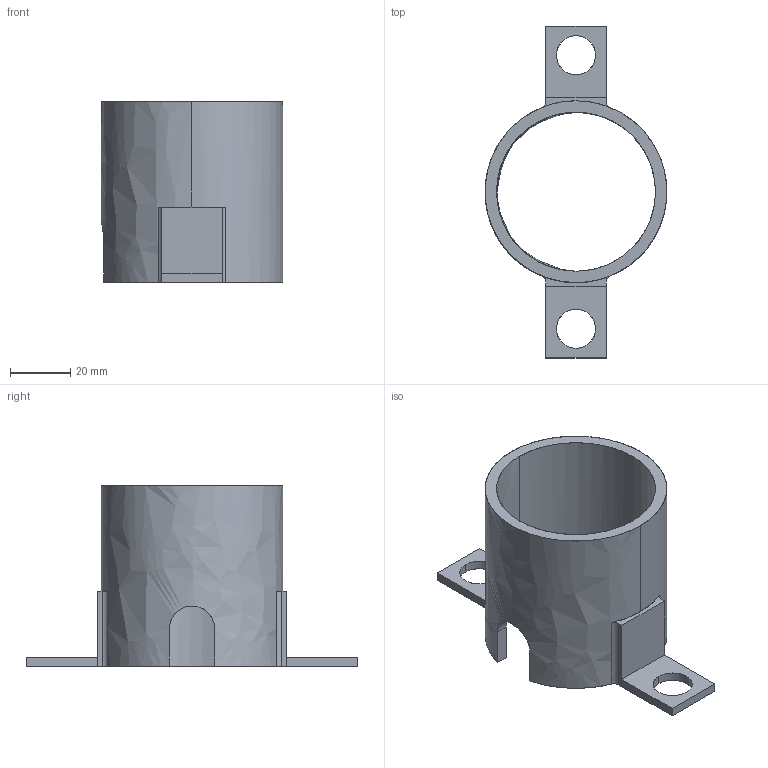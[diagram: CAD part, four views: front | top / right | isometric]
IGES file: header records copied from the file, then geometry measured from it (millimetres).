
Global section: file name: E:\UnigraphicsGraphicData\MISUMI_PRESS-PARTS\IGES\3d_ph40-60-r_07054_r00.igs; native system: NX V5.0; preprocessor: UGS NX IGES V5.0; author: MISUMI; date: 20110105.162244; units: millimetre
Bounding box: 60.5 x 110.5 x 60 mm (x, y, z)
Surface area: 27138.1 mm2 (no closed solid volume)
Topology: 0 solids, 0 shells, 41 faces, 282 edges, 282 vertices
Faces by surface type: bspline 41
